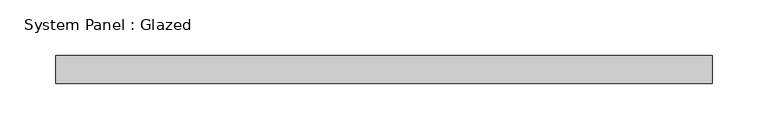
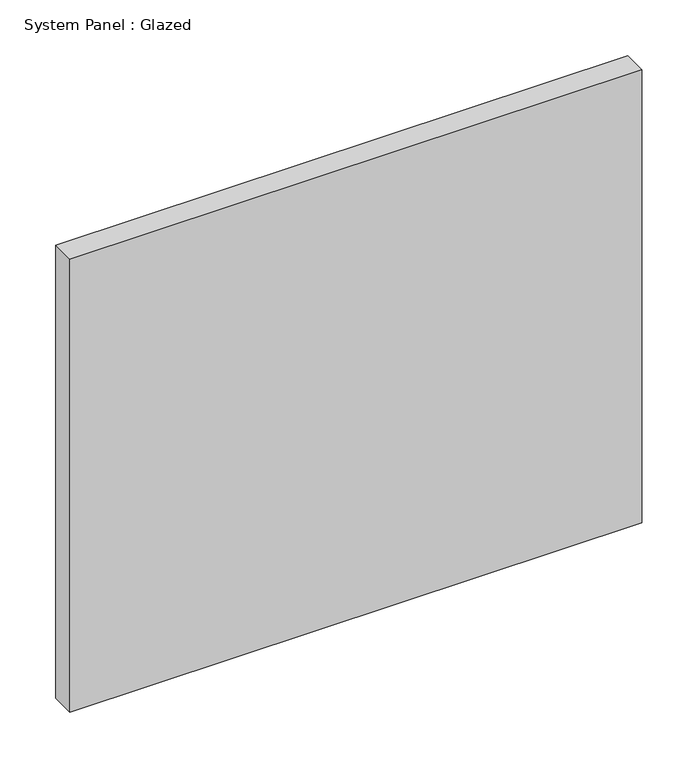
"""IFC4 building model written with IfcOpenShell, lengths in millimetres: plate geometry, System Panel : Glazed."""

from ifc_helpers import new_model, si_unit, origin, origin_with_axes, place, context, project, spatial, polyline, outline, extrude, source, transform, mapped, element, save


def system_panel_glazed_31b69a49(model_context):
    return source(origin(), model_context, "Body", "SweptSolid", [
        extrude(outline(polyline([(295.693807, -12.7), (-295.693807, -12.7), (-295.693807, 12.7), (295.693807, 12.7), (295.693807, -12.7)])), origin_with_axes(), (0.0, 0.0, 1.0), 495.3),
    ])


if __name__ == "__main__":
    model = new_model("IFC4")
    model_context = context("Model", 3, world=origin())
    ifc_project = project(units=[si_unit("LENGTHUNIT", "METRE", prefix="MILLI")], contexts=[model_context])
    site = spatial("IfcSite", under=ifc_project)
    building = spatial("IfcBuilding", under=site)
    placement = place(None, origin())
    system_panel_glazed_shape = system_panel_glazed_31b69a49(model_context)
    element("IfcPlate", 1, ObjectType="System Panel : Glazed", at=placement, inside=building, context=model_context, shape_type="MappedRepresentation", body=[
        mapped(system_panel_glazed_shape, transform((0.0, 0.0, 0.0), x_axis=(1.0, 0.0, 0.0), y_axis=(0.0, 1.0, 0.0), z_axis=(0.0, 0.0, 1.0))),
    ])
    save(model, "model.ifc")
